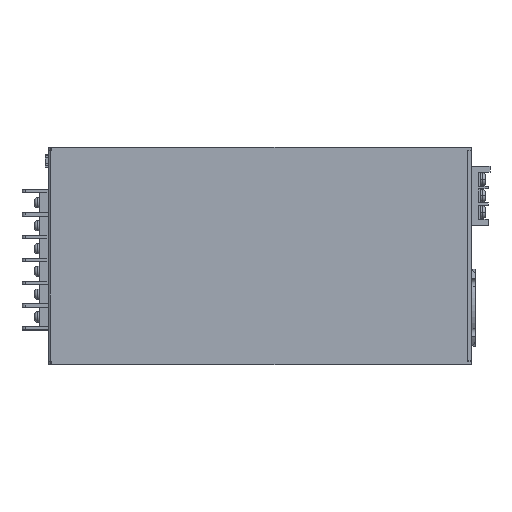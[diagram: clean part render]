
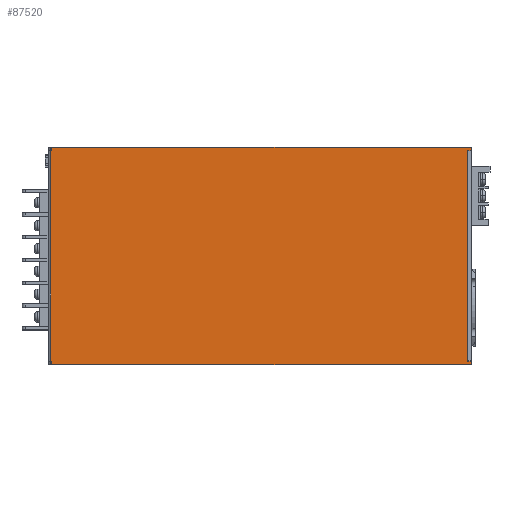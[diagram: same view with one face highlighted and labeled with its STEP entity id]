
A CAD part, top view. The second image highlights one B-rep face of the part: STEP entity #87520.
In plain terms, the highlighted planar face has unit normal (0, 0, 1).
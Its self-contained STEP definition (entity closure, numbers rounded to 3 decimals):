
#83080=CARTESIAN_POINT('',(250.878,164.358,63.5));
#83090=VERTEX_POINT('',#83080);
#83120=CARTESIAN_POINT('',(260.878,164.358,63.5));
#83130=DIRECTION('',(1.,0.,0.));
#83140=VECTOR('',#83130,1.);
#83150=LINE('',#83120,#83140);
#83160=CARTESIAN_POINT('',(253.078,164.358,63.5));
#83170=VERTEX_POINT('',#83160);
#83180=EDGE_CURVE('',#83090,#83170,#83150,.T.);
#85690=CARTESIAN_POINT('',(253.078,166.358,63.5));
#85700=VERTEX_POINT('',#85690);
#85730=CARTESIAN_POINT('',(7.937,166.358,63.5));
#85740=DIRECTION('',(1.,0.,0.));
#85750=VECTOR('',#85740,1.);
#85760=LINE('',#85730,#85750);
#85770=CARTESIAN_POINT('',(7.937,166.358,63.5));
#85780=VERTEX_POINT('',#85770);
#85790=EDGE_CURVE('',#85780,#85700,#85760,.T.);
#86550=CARTESIAN_POINT('',(7.937,164.358,63.5));
#86560=DIRECTION('',(0.,1.,0.));
#86570=VECTOR('',#86560,1.);
#86580=LINE('',#86550,#86570);
#86590=CARTESIAN_POINT('',(7.937,164.358,63.5));
#86600=VERTEX_POINT('',#86590);
#86610=EDGE_CURVE('',#86600,#85780,#86580,.T.);
#86740=CARTESIAN_POINT('',(263.078,39.358,63.5));
#86750=DIRECTION('',(0.,0.,1.));
#86760=DIRECTION('',(1.,0.,0.));
#86770=AXIS2_PLACEMENT_3D('',#86740,#86750,#86760);
#86780=PLANE('',#86770);
#86790=ORIENTED_EDGE('',*,*,#85790,.F.);
#86800=CARTESIAN_POINT('',(253.078,164.358,63.5));
#86810=DIRECTION('',(0.,1.,0.));
#86820=VECTOR('',#86810,1.);
#86830=LINE('',#86800,#86820);
#86840=EDGE_CURVE('',#83170,#85700,#86830,.T.);
#86850=ORIENTED_EDGE('',*,*,#86840,.T.);
#86860=ORIENTED_EDGE('',*,*,#83180,.T.);
#86870=CARTESIAN_POINT('',(250.878,41.358,63.5));
#86880=DIRECTION('',(0.,1.,0.));
#86890=VECTOR('',#86880,1.);
#86900=LINE('',#86870,#86890);
#86910=CARTESIAN_POINT('',(250.878,41.358,63.5));
#86920=VERTEX_POINT('',#86910);
#86930=EDGE_CURVE('',#86920,#83090,#86900,.T.);
#86940=ORIENTED_EDGE('',*,*,#86930,.T.);
#86950=CARTESIAN_POINT('',(263.078,41.358,63.5));
#86960=DIRECTION('',(-1.,0.,0.));
#86970=VECTOR('',#86960,1.);
#86980=LINE('',#86950,#86970);
#86990=CARTESIAN_POINT('',(253.078,41.358,63.5));
#87000=VERTEX_POINT('',#86990);
#87010=EDGE_CURVE('',#87000,#86920,#86980,.T.);
#87020=ORIENTED_EDGE('',*,*,#87010,.T.);
#87030=CARTESIAN_POINT('',(253.078,41.358,63.5));
#87040=DIRECTION('',(0.,-1.,0.));
#87050=VECTOR('',#87040,1.);
#87060=LINE('',#87030,#87050);
#87070=CARTESIAN_POINT('',(253.078,39.358,63.5));
#87080=VERTEX_POINT('',#87070);
#87090=EDGE_CURVE('',#87000,#87080,#87060,.T.);
#87100=ORIENTED_EDGE('',*,*,#87090,.F.);
#87110=CARTESIAN_POINT('',(263.078,39.358,63.5));
#87120=DIRECTION('',(-1.,0.,0.));
#87130=VECTOR('',#87120,1.);
#87140=LINE('',#87110,#87130);
#87150=CARTESIAN_POINT('',(7.937,39.358,63.5));
#87160=VERTEX_POINT('',#87150);
#87170=EDGE_CURVE('',#87080,#87160,#87140,.T.);
#87180=ORIENTED_EDGE('',*,*,#87170,.F.);
#87190=CARTESIAN_POINT('',(7.937,39.358,63.5));
#87200=DIRECTION('',(0.,1.,0.));
#87210=VECTOR('',#87200,1.);
#87220=LINE('',#87190,#87210);
#87230=CARTESIAN_POINT('',(7.937,41.358,63.5));
#87240=VERTEX_POINT('',#87230);
#87250=EDGE_CURVE('',#87160,#87240,#87220,.T.);
#87260=ORIENTED_EDGE('',*,*,#87250,.F.);
#87270=CARTESIAN_POINT('',(7.937,41.358,63.5));
#87280=DIRECTION('',(-1.,0.,0.));
#87290=VECTOR('',#87280,1.);
#87300=LINE('',#87270,#87290);
#87310=CARTESIAN_POINT('',(7.378,41.358,63.5));
#87320=VERTEX_POINT('',#87310);
#87330=EDGE_CURVE('',#87240,#87320,#87300,.T.);
#87340=ORIENTED_EDGE('',*,*,#87330,.F.);
#87350=CARTESIAN_POINT('',(7.378,41.358,63.5));
#87360=DIRECTION('',(0.,1.,0.));
#87370=VECTOR('',#87360,1.);
#87380=LINE('',#87350,#87370);
#87390=CARTESIAN_POINT('',(7.378,164.358,63.5));
#87400=VERTEX_POINT('',#87390);
#87410=EDGE_CURVE('',#87320,#87400,#87380,.T.);
#87420=ORIENTED_EDGE('',*,*,#87410,.F.);
#87430=CARTESIAN_POINT('',(7.937,164.358,63.5));
#87440=DIRECTION('',(-1.,0.,0.));
#87450=VECTOR('',#87440,1.);
#87460=LINE('',#87430,#87450);
#87470=EDGE_CURVE('',#86600,#87400,#87460,.T.);
#87480=ORIENTED_EDGE('',*,*,#87470,.T.);
#87490=ORIENTED_EDGE('',*,*,#86610,.F.);
#87500=EDGE_LOOP('',(#87490,#87480,#87420,#87340,#87260,#87180,#87100,
#87020,#86940,#86860,#86850,#86790));
#87510=FACE_OUTER_BOUND('',#87500,.T.);
#87520=ADVANCED_FACE('',(#87510),#86780,.T.);
